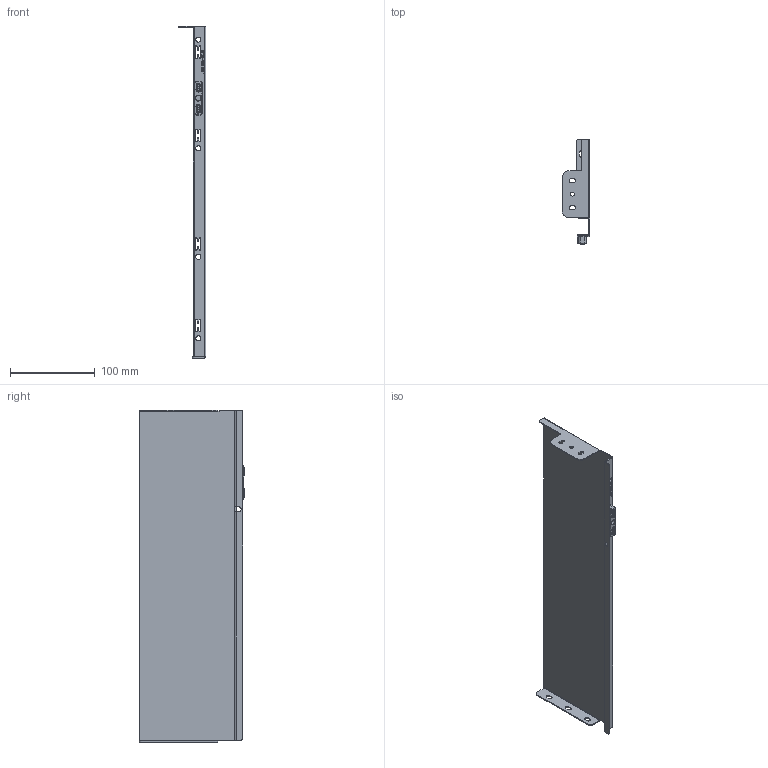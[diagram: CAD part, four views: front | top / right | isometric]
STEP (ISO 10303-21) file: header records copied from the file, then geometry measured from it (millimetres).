
FILE_DESCRIPTION (( 'STEP AP203' ), '1' );
FILE_NAME ('HL12400R.STEP', '2021-07-31T00:36:29', ( 'Users' ), ( 'Microsoft' ), 'SwSTEP 2.0', 'SolidWorks 2018', '' );
FILE_SCHEMA (( 'CONFIG_CONTROL_DESIGN' ));
Length unit declared in the file: millimetre
Products named in the file (1): HL12400R
Bounding box: 32.6 x 124.7 x 391.2 mm (x, y, z)
Volume: 69431.4 mm3; surface area: 114371.5 mm2
Topology: 1 solids, 1 shells, 443 faces, 1202 edges, 779 vertices
Faces by surface type: plane 171, cylinder 167, torus 55, bspline 48, cone 2
Entity records: 16748 total; most frequent: CARTESIAN_POINT 5400, ORIENTED_EDGE 2396, DIRECTION 2339, EDGE_CURVE 1198, AXIS2_PLACEMENT_3D 846, VERTEX_POINT 779, LINE 647, VECTOR 647
